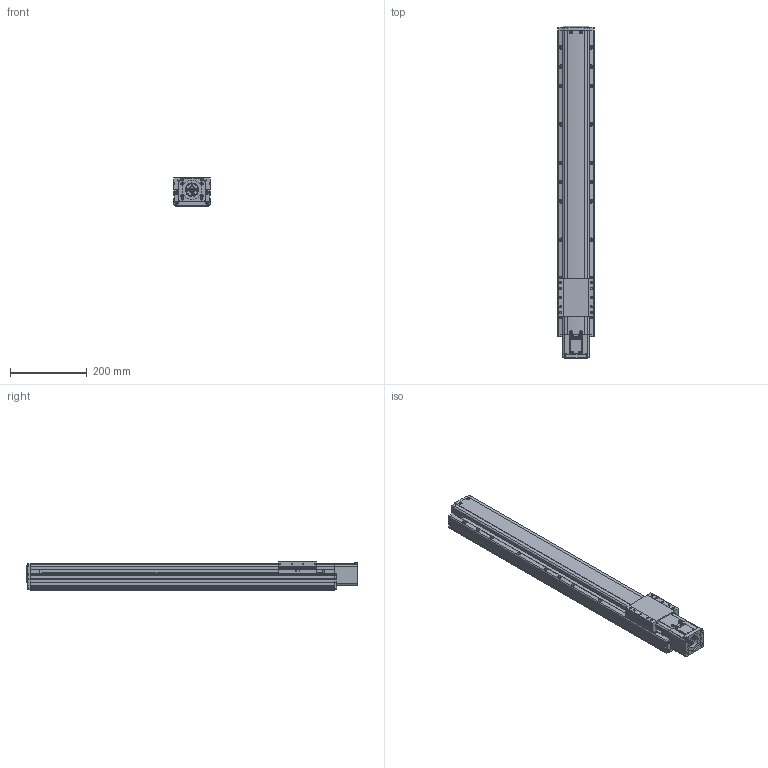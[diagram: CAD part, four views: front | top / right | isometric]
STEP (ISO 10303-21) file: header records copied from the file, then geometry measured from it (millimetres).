
FILE_DESCRIPTION(('STEP AP214'),'1');
FILE_NAME('Z:/Web/3D/PSA95/STP/PSA95-600 (3D)/PSA95ㅁㅁ-600S.stp','2014-07-03T00:36:50',(' '),(' '),'Spatial InterOp 3D',' ',' ');
FILE_SCHEMA(('automotive_design'));
Length unit declared in the file: millimetre
Products named in the file (35): BASE; RRCV; 스크루 : Round - M4.0 x 10.0; 너트 : Square - M10.0 x 220.7419; RR1500; FRCV-090; 스크루 : Round - M4.0 x 6.0; SLBL-PA90; SSFX-SAN65; CPLCV-SAN65; 스크루 : Round - M3.0 x 6.0; MTHZ-PA70/90-S60A-3; 스크루 : Socket - M4.0 x 20.0; NONE
Bounding box: 95 x 862.5 x 74 mm (x, y, z)
Volume: 4514592.2 mm3; surface area: 497432.2 mm2
Topology: 35 solids, 69 shells, 3087 faces, 7924 edges, 4988 vertices
Faces by surface type: plane 1462, cylinder 998, cone 391, torus 158, sphere 46, bspline 32
Entity records: 121764 total; most frequent: CARTESIAN_POINT 20135, DIRECTION 16576, ORIENTED_EDGE 15544, EDGE_CURVE 7772, AXIS2_PLACEMENT_3D 5951, VERTEX_POINT 4988, LINE 4674, VECTOR 4674
